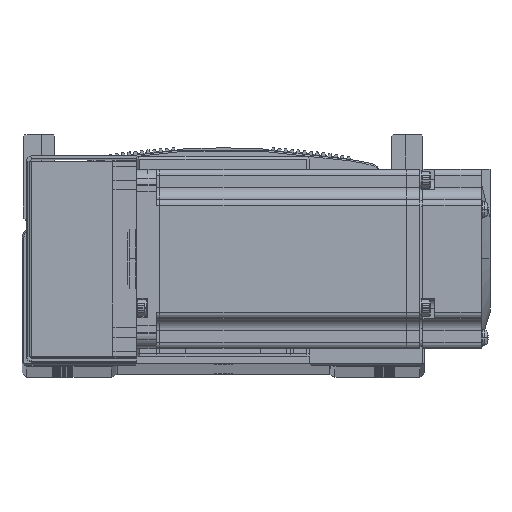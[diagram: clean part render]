
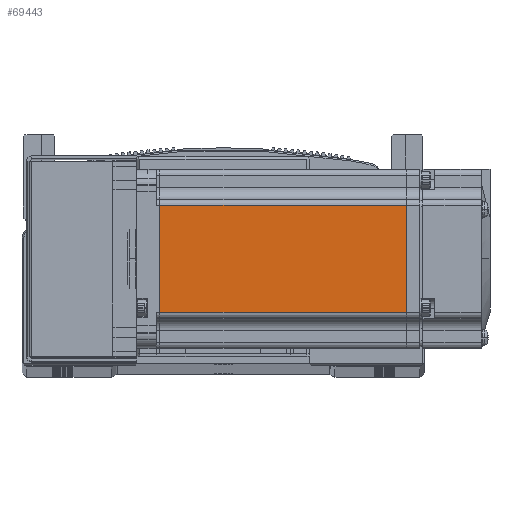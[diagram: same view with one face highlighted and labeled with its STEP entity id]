
A CAD part, top view. The second image highlights one B-rep face of the part: STEP entity #69443.
In plain terms, the highlighted planar face has unit normal (0, 0, 1) as drawn and (0, 0, -1) by its records, which use the part's own axes.
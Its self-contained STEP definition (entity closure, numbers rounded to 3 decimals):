
#8753 = VECTOR ( 'NONE', #12738, 1000. ) ;
#8823 = LINE ( 'NONE', #12644, #8753 ) ;
#8841 = LINE ( 'NONE', #13194, #8842 ) ;
#8842 = VECTOR ( 'NONE', #13183, 1000. ) ;
#8846 = VECTOR ( 'NONE', #12983, 1000. ) ;
#8858 = VECTOR ( 'NONE', #13031, 1000. ) ;
#8878 = LINE ( 'NONE', #12952, #8846 ) ;
#8923 = LINE ( 'NONE', #13029, #8858 ) ;
#12644 = CARTESIAN_POINT ( 'NONE',  ( -90.45, 25., -30. ) ) ;
#12738 = DIRECTION ( 'NONE',  ( 0., 1., 0. ) ) ;
#12952 = CARTESIAN_POINT ( 'NONE',  ( -7.75, 25., -30. ) ) ;
#12983 = DIRECTION ( 'NONE',  ( 0., -1., 0. ) ) ;
#13029 = CARTESIAN_POINT ( 'NONE',  ( -6.5, -18., -30. ) ) ;
#13031 = DIRECTION ( 'NONE',  ( -1., 0., 0. ) ) ;
#13183 = DIRECTION ( 'NONE',  ( 1., 0., 0. ) ) ;
#13194 = CARTESIAN_POINT ( 'NONE',  ( -6.5, 18., -30. ) ) ;
#16239 = EDGE_LOOP ( 'NONE', ( #60442, #60554, #60619, #60434 ) ) ;
#19407 = AXIS2_PLACEMENT_3D ( 'NONE', #77635, #77632, #77633 ) ;
#22017 = CARTESIAN_POINT ( 'NONE',  ( -7.75, -18., -30. ) ) ;
#22082 = CARTESIAN_POINT ( 'NONE',  ( -90.45, -18., -30. ) ) ;
#22317 = CARTESIAN_POINT ( 'NONE',  ( -90.45, 18., -30. ) ) ;
#22393 = CARTESIAN_POINT ( 'NONE',  ( -7.75, 18., -30. ) ) ;
#56968 = VERTEX_POINT ( 'NONE', #22017 ) ;
#57019 = VERTEX_POINT ( 'NONE', #22082 ) ;
#57279 = VERTEX_POINT ( 'NONE', #22317 ) ;
#57370 = VERTEX_POINT ( 'NONE', #22393 ) ;
#58064 = EDGE_CURVE ( 'NONE', #57019, #57279, #8823, .T. ) ;
#58226 = EDGE_CURVE ( 'NONE', #57370, #56968, #8878, .T. ) ;
#58239 = EDGE_CURVE ( 'NONE', #56968, #57019, #8923, .T. ) ;
#58299 = EDGE_CURVE ( 'NONE', #57279, #57370, #8841, .T. ) ;
#60434 = ORIENTED_EDGE ( 'NONE', *, *, #58299, .T. ) ;
#60442 = ORIENTED_EDGE ( 'NONE', *, *, #58226, .T. ) ;
#60554 = ORIENTED_EDGE ( 'NONE', *, *, #58239, .T. ) ;
#60619 = ORIENTED_EDGE ( 'NONE', *, *, #58064, .T. ) ;
#69443 = ADVANCED_FACE ( 'NONE', ( #76280 ), #77631, .T. ) ;
#76280 = FACE_OUTER_BOUND ( 'NONE', #16239, .T. ) ;
#77631 = PLANE ( 'NONE',  #19407 ) ;
#77632 = DIRECTION ( 'NONE',  ( 0., 0., -1. ) ) ;
#77633 = DIRECTION ( 'NONE',  ( -1., 0., 0. ) ) ;
#77635 = CARTESIAN_POINT ( 'NONE',  ( -6.5, 25., -30. ) ) ;
